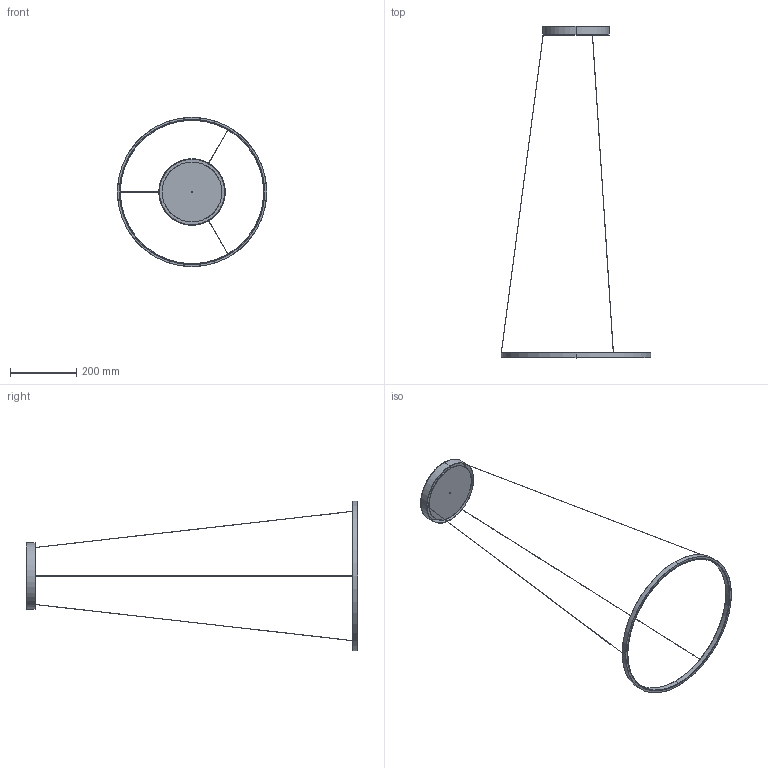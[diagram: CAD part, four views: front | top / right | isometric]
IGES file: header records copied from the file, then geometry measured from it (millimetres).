
Start section: SolidWorks IGES file using analytic representation for surfaces
Global section: file name: Y:\PRODUKT\Modele 3D_WWW\_KOLEKCJE WWW\CIRCOLO\10812-10862\CIRCOLO-LED-10812-10862.IGS; native system: SolidWorks 2023; preprocessor: SolidWorks 2023; author: wioleta.imiolczyk; date: 230525.114338; units: millimetre
Bounding box: 450.2 x 1000 x 450 mm (x, y, z)
Surface area: 259648.4 mm2 (no closed solid volume)
Topology: 0 solids, 0 shells, 58 faces, 1450 edges, 1450 vertices
Faces by surface type: revolution 34, bspline 24
